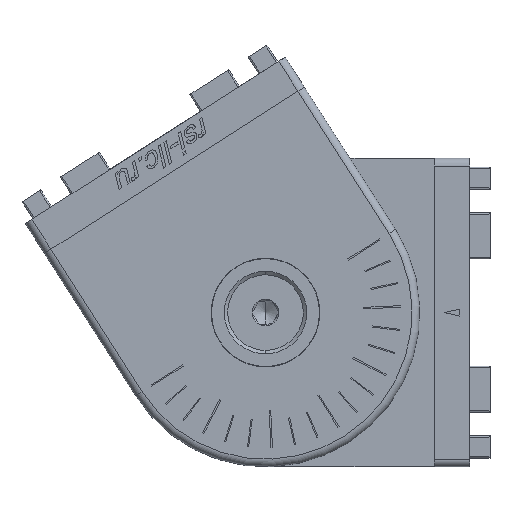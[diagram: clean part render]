
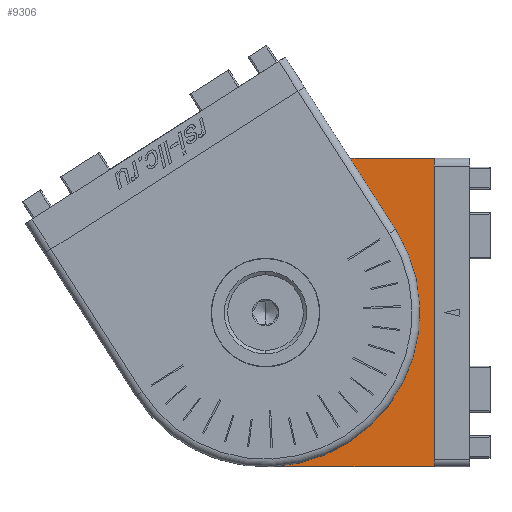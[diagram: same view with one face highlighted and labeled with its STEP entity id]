
A CAD part, left-side view. The second image highlights one B-rep face of the part: STEP entity #9306.
In plain terms, the highlighted planar face has unit normal (-1, 0, 0).
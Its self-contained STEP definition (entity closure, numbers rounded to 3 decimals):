
#144 = DIRECTION ( 'NONE',  ( 0., 0., 1. ) ) ;
#394 = CARTESIAN_POINT ( 'NONE',  ( -6.9, 4.6, -20. ) ) ;
#664 = DIRECTION ( 'NONE',  ( 0., 0., 1. ) ) ;
#924 = VERTEX_POINT ( 'NONE', #13601 ) ;
#1213 = EDGE_CURVE ( 'NONE', #11324, #14837, #6661, .T. ) ;
#1534 = DIRECTION ( 'NONE',  ( 0., 0., 1. ) ) ;
#1645 = FACE_BOUND ( 'NONE', #7579, .T. ) ;
#1799 = AXIS2_PLACEMENT_3D ( 'NONE', #13605, #16421, #14756 ) ;
#2838 = VERTEX_POINT ( 'NONE', #3602 ) ;
#2955 = LINE ( 'NONE', #8252, #6817 ) ;
#3104 = EDGE_CURVE ( 'NONE', #2838, #924, #5124, .T. ) ;
#3202 = AXIS2_PLACEMENT_3D ( 'NONE', #8610, #14038, #664 ) ;
#3442 = ORIENTED_EDGE ( 'NONE', *, *, #1213, .T. ) ;
#3602 = CARTESIAN_POINT ( 'NONE',  ( -6.9, 26.5, 10.3 ) ) ;
#3735 = CARTESIAN_POINT ( 'NONE',  ( -6.9, 4.6, 20. ) ) ;
#3813 = CARTESIAN_POINT ( 'NONE',  ( -6.9, 26.5, 0. ) ) ;
#4170 = DIRECTION ( 'NONE',  ( -1., 0., 0. ) ) ;
#4426 = PLANE ( 'NONE',  #10159 ) ;
#4579 = EDGE_CURVE ( 'NONE', #14837, #6507, #5941, .T. ) ;
#5124 = CIRCLE ( 'NONE', #1799, 10.3 ) ;
#5127 = ORIENTED_EDGE ( 'NONE', *, *, #10225, .T. ) ;
#5445 = DIRECTION ( 'NONE',  ( 0., -1., 0. ) ) ;
#5632 = ORIENTED_EDGE ( 'NONE', *, *, #14607, .F. ) ;
#5726 = VERTEX_POINT ( 'NONE', #8712 ) ;
#5810 = FACE_OUTER_BOUND ( 'NONE', #9153, .T. ) ;
#5941 = CIRCLE ( 'NONE', #3202, 20. ) ;
#6507 = VERTEX_POINT ( 'NONE', #7144 ) ;
#6661 = LINE ( 'NONE', #3735, #8821 ) ;
#6817 = VECTOR ( 'NONE', #5445, 1000. ) ;
#7144 = CARTESIAN_POINT ( 'NONE',  ( -6.9, 26.5, -20. ) ) ;
#7579 = EDGE_LOOP ( 'NONE', ( #11822, #5632 ) ) ;
#8252 = CARTESIAN_POINT ( 'NONE',  ( -6.9, 26.5, -20. ) ) ;
#8610 = CARTESIAN_POINT ( 'NONE',  ( -6.9, 26.5, 0. ) ) ;
#8712 = CARTESIAN_POINT ( 'NONE',  ( -6.9, 4.6, -20. ) ) ;
#8735 = CIRCLE ( 'NONE', #10140, 10.3 ) ;
#8821 = VECTOR ( 'NONE', #14554, 1000. ) ;
#9124 = DIRECTION ( 'NONE',  ( -1., 0., 0. ) ) ;
#9153 = EDGE_LOOP ( 'NONE', ( #13893, #10641, #5127, #3442 ) ) ;
#9306 = ADVANCED_FACE ( 'NONE', ( #1645, #5810 ), #4426, .T. ) ;
#9386 = LINE ( 'NONE', #394, #13253 ) ;
#9477 = DIRECTION ( 'NONE',  ( 0., 0., 1. ) ) ;
#10140 = AXIS2_PLACEMENT_3D ( 'NONE', #3813, #9124, #1534 ) ;
#10159 = AXIS2_PLACEMENT_3D ( 'NONE', #16136, #4170, #9477 ) ;
#10225 = EDGE_CURVE ( 'NONE', #5726, #11324, #9386, .T. ) ;
#10234 = EDGE_CURVE ( 'NONE', #6507, #5726, #2955, .T. ) ;
#10641 = ORIENTED_EDGE ( 'NONE', *, *, #10234, .T. ) ;
#11296 = CARTESIAN_POINT ( 'NONE',  ( -6.9, 26.5, 20. ) ) ;
#11324 = VERTEX_POINT ( 'NONE', #13679 ) ;
#11822 = ORIENTED_EDGE ( 'NONE', *, *, #3104, .F. ) ;
#13253 = VECTOR ( 'NONE', #144, 1000. ) ;
#13601 = CARTESIAN_POINT ( 'NONE',  ( -6.9, 26.5, -10.3 ) ) ;
#13605 = CARTESIAN_POINT ( 'NONE',  ( -6.9, 26.5, 0. ) ) ;
#13679 = CARTESIAN_POINT ( 'NONE',  ( -6.9, 4.6, 20. ) ) ;
#13893 = ORIENTED_EDGE ( 'NONE', *, *, #4579, .T. ) ;
#14038 = DIRECTION ( 'NONE',  ( -1., 0., 0. ) ) ;
#14554 = DIRECTION ( 'NONE',  ( 0., 1., 0. ) ) ;
#14607 = EDGE_CURVE ( 'NONE', #924, #2838, #8735, .T. ) ;
#14756 = DIRECTION ( 'NONE',  ( 0., 0., 1. ) ) ;
#14837 = VERTEX_POINT ( 'NONE', #11296 ) ;
#16136 = CARTESIAN_POINT ( 'NONE',  ( -6.9, 26.5, 0. ) ) ;
#16421 = DIRECTION ( 'NONE',  ( -1., 0., 0. ) ) ;
